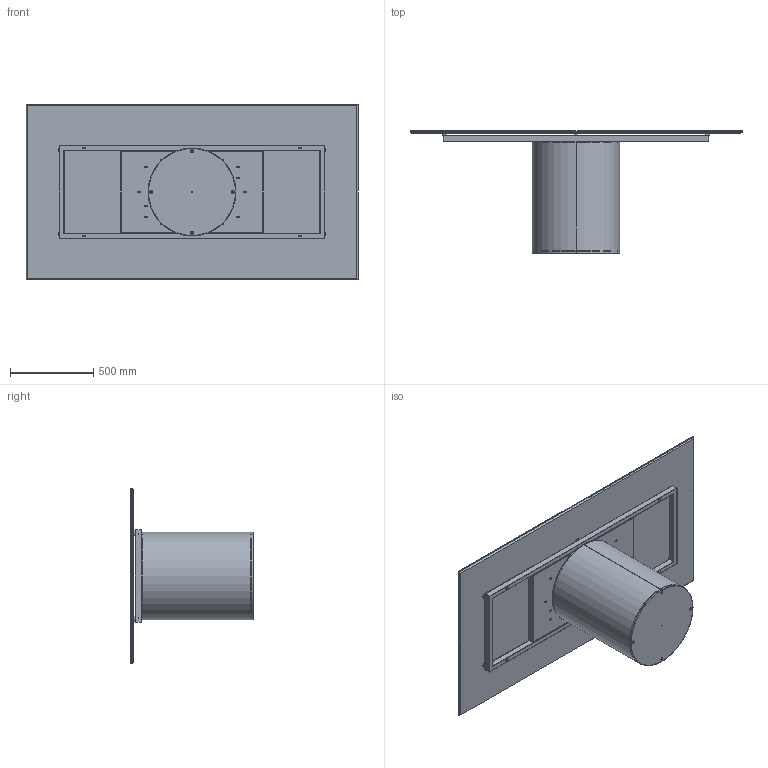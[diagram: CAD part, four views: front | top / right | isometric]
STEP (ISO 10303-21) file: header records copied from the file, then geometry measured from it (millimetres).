
FILE_DESCRIPTION (( 'STEP AP203' ), '1' );
FILE_NAME ('CI21C.STEP', '2024-08-08T07:21:29', ( '' ), ( '' ), 'SwSTEP 2.0', 'SolidWorks 2022', '' );
FILE_SCHEMA (( 'CONFIG_CONTROL_DESIGN' ));
Length unit declared in the file: millimetre
Products named in the file (11): K2XCMXX-00-Piani Rettangolari in ceramica_2000 x 1060; TTAV01_01-05-TELAIO UNIVERSALE X TAVOLI 180 240cm; TTAV01_02-05-VASSOIO IRRIGIDIMENTO TELAIO UNIVERSALE; C2B000000_02-01-ZAVORRA IN FERRO D.530mm; C2B000000-03-CILINDRO BASE D.530mm_Normale; 434070-00-PIEDINO TPV GOMMA NERO D. 30x8max18_filo estetico; COLLO TELAIO UNIVERSALE TTAV01 CON FERRAMENTA_MTG TOP CRISTALLO VERNICIATO-CERAMICA; M8xXXmm_hex_M8X20mm; C2B000000_01-00-struttura cilindro D.530mm; TTAV01-05-TELAIO UNIVERSALE X TAVOLI 180 240cm; CI21C
Assembly tree (18 placements, depth 4):
  CI21C
    C2B000000-03-CILINDRO BASE D.530mm_Normale
      C2B000000_01-00-struttura cilindro D.530mm
      C2B000000_02-01-ZAVORRA IN FERRO D.530mm
      M8xXXmm_hex_M8X20mm  x4
    COLLO TELAIO UNIVERSALE TTAV01 CON FERRAMENTA_MTG TOP CRISTALLO VERNICIATO-CERAMICA
      TTAV01-05-TELAIO UNIVERSALE X TAVOLI 180 240cm
        TTAV01_02-05-VASSOIO IRRIGIDIMENTO TELAIO UNIVERSALE
        TTAV01_01-05-TELAIO UNIVERSALE X TAVOLI 180 240cm
      434070-00-PIEDINO TPV GOMMA NERO D. 30x8max18_filo estetico  x6
    K2XCMXX-00-Piani Rettangolari in ceramica_2000 x 1060
Bounding box: 2000 x 736 x 1060 mm (x, y, z)
Volume: 42416678.5 mm3; surface area: 13661658 mm2
Topology: 25 solids, 25 shells, 582 faces, 1360 edges, 814 vertices
Faces by surface type: plane 266, cylinder 230, cone 32, torus 32, sphere 22
Entity records: 14039 total; most frequent: DIRECTION 2312, CARTESIAN_POINT 2175, ORIENTED_EDGE 2076, EDGE_CURVE 1038, AXIS2_PLACEMENT_3D 846, VERTEX_POINT 645, VECTOR 620, LINE 620
